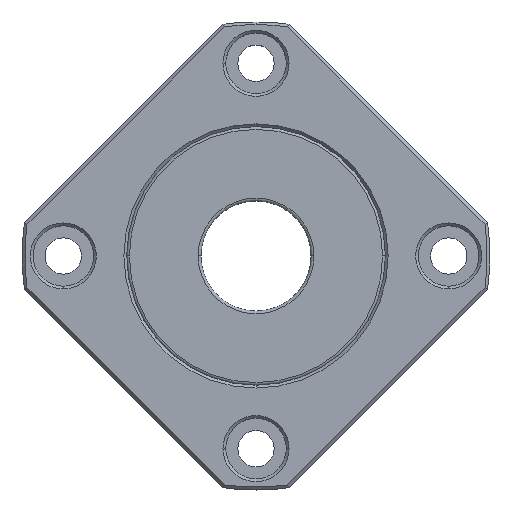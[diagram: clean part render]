
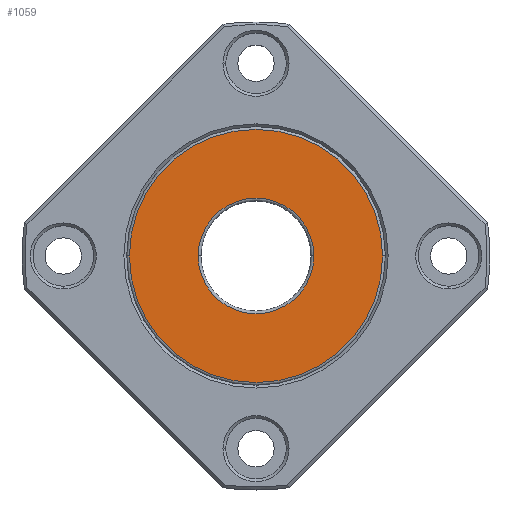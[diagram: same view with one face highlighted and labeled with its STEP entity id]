
A CAD part, top view. The second image highlights one B-rep face of the part: STEP entity #1059.
In plain terms, the highlighted planar face has unit normal (0, 0, 1).
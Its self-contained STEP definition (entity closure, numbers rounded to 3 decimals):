
#258 = CARTESIAN_POINT ( 'NONE',  ( 0., 0., 7. ) ) ;
#438 = CIRCLE ( 'NONE', #489, 10.5 ) ;
#489 = AXIS2_PLACEMENT_3D ( 'NONE', #513, #1603, #2166 ) ;
#513 = CARTESIAN_POINT ( 'NONE',  ( 0., 0., 7. ) ) ;
#539 = AXIS2_PLACEMENT_3D ( 'NONE', #1011, #631, #1022 ) ;
#562 = CARTESIAN_POINT ( 'NONE',  ( 10.5, 0., 7. ) ) ;
#612 = DIRECTION ( 'NONE',  ( 0., 0., 1. ) ) ;
#631 = DIRECTION ( 'NONE',  ( 0., 0., 1. ) ) ;
#650 = EDGE_CURVE ( 'NONE', #819, #813, #438, .T. ) ;
#697 = ORIENTED_EDGE ( 'NONE', *, *, #650, .T. ) ;
#813 = VERTEX_POINT ( 'NONE', #1281 ) ;
#819 = VERTEX_POINT ( 'NONE', #562 ) ;
#864 = EDGE_CURVE ( 'NONE', #1216, #1148, #2058, .T. ) ;
#874 = ORIENTED_EDGE ( 'NONE', *, *, #1713, .T. ) ;
#942 = DIRECTION ( 'NONE',  ( 1., 0., 0. ) ) ;
#960 = FACE_OUTER_BOUND ( 'NONE', #1532, .T. ) ;
#1011 = CARTESIAN_POINT ( 'NONE',  ( 0., 0., 7. ) ) ;
#1022 = DIRECTION ( 'NONE',  ( 1., 0., 0. ) ) ;
#1030 = ORIENTED_EDGE ( 'NONE', *, *, #864, .T. ) ;
#1034 = EDGE_CURVE ( 'NONE', #813, #819, #1511, .T. ) ;
#1059 = ADVANCED_FACE ( 'NONE', ( #1071, #960 ), #1521, .T. ) ;
#1071 = FACE_BOUND ( 'NONE', #1811, .T. ) ;
#1148 = VERTEX_POINT ( 'NONE', #1697 ) ;
#1163 = DIRECTION ( 'NONE',  ( 1., 0., 0. ) ) ;
#1216 = VERTEX_POINT ( 'NONE', #2331 ) ;
#1281 = CARTESIAN_POINT ( 'NONE',  ( -10.5, 0., 7. ) ) ;
#1320 = CARTESIAN_POINT ( 'NONE',  ( 0., 0., 7. ) ) ;
#1511 = CIRCLE ( 'NONE', #1525, 10.5 ) ;
#1521 = PLANE ( 'NONE',  #2361 ) ;
#1525 = AXIS2_PLACEMENT_3D ( 'NONE', #1705, #2069, #942 ) ;
#1532 = EDGE_LOOP ( 'NONE', ( #1030, #874 ) ) ;
#1603 = DIRECTION ( 'NONE',  ( 0., 0., -1. ) ) ;
#1697 = CARTESIAN_POINT ( 'NONE',  ( -23., 0., 7. ) ) ;
#1705 = CARTESIAN_POINT ( 'NONE',  ( 0., 0., 7. ) ) ;
#1713 = EDGE_CURVE ( 'NONE', #1148, #1216, #2226, .T. ) ;
#1745 = DIRECTION ( 'NONE',  ( 1., 0., 0. ) ) ;
#1811 = EDGE_LOOP ( 'NONE', ( #697, #2158 ) ) ;
#2058 = CIRCLE ( 'NONE', #539, 23. ) ;
#2069 = DIRECTION ( 'NONE',  ( 0., 0., -1. ) ) ;
#2158 = ORIENTED_EDGE ( 'NONE', *, *, #1034, .T. ) ;
#2166 = DIRECTION ( 'NONE',  ( 1., 0., 0. ) ) ;
#2175 = AXIS2_PLACEMENT_3D ( 'NONE', #258, #612, #1163 ) ;
#2226 = CIRCLE ( 'NONE', #2175, 23. ) ;
#2323 = DIRECTION ( 'NONE',  ( 0., 0., 1. ) ) ;
#2331 = CARTESIAN_POINT ( 'NONE',  ( 23., 0., 7. ) ) ;
#2361 = AXIS2_PLACEMENT_3D ( 'NONE', #1320, #2323, #1745 ) ;
